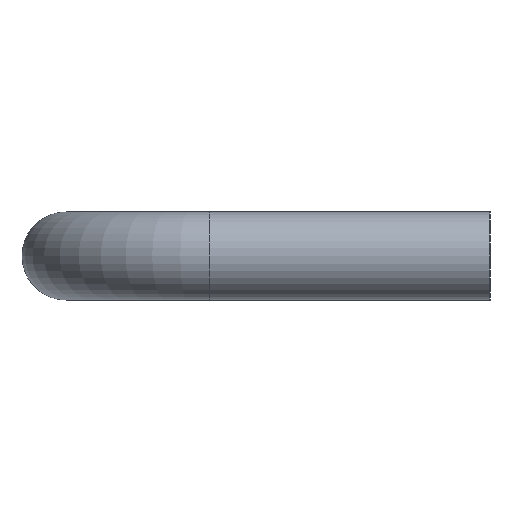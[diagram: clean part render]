
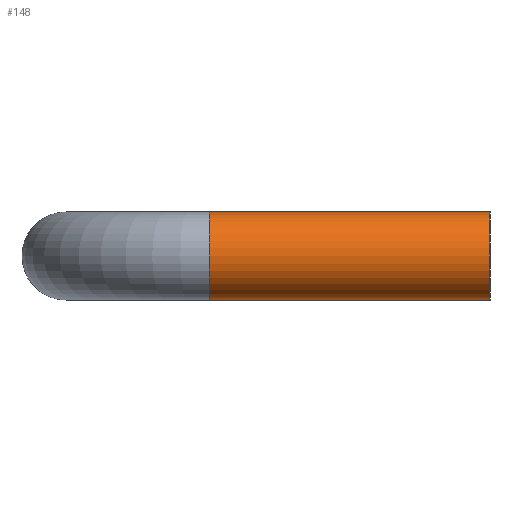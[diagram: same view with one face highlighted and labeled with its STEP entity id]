
A CAD part, left-side view. The second image highlights one B-rep face of the part: STEP entity #148.
In plain terms, the highlighted cylindrical face has radius 8 mm (diameter 16 mm), a full revolution.
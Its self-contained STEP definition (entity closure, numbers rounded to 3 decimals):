
#28=CYLINDRICAL_SURFACE('',#176,8.);
#35=ORIENTED_EDGE('',*,*,#59,.F.);
#36=ORIENTED_EDGE('',*,*,#57,.T.);
#57=EDGE_CURVE('',#69,#69,#83,.T.);
#59=EDGE_CURVE('',#71,#71,#85,.T.);
#69=VERTEX_POINT('',#253);
#71=VERTEX_POINT('',#258);
#83=CIRCLE('',#174,8.);
#85=CIRCLE('',#177,8.);
#97=EDGE_LOOP('',(#35));
#98=EDGE_LOOP('',(#36));
#121=FACE_BOUND('',#97,.T.);
#122=FACE_BOUND('',#98,.T.);
#148=ADVANCED_FACE('',(#121,#122),#28,.T.);
#174=AXIS2_PLACEMENT_3D('',#252,#202,#203);
#176=AXIS2_PLACEMENT_3D('',#256,#206,#207);
#177=AXIS2_PLACEMENT_3D('',#257,#208,#209);
#202=DIRECTION('',(0.,1.,0.));
#203=DIRECTION('',(0.,0.,1.));
#206=DIRECTION('',(0.,1.,0.));
#207=DIRECTION('',(0.,0.,1.));
#208=DIRECTION('',(0.,1.,0.));
#209=DIRECTION('',(0.,0.,1.));
#252=CARTESIAN_POINT('',(-80.,0.,0.));
#253=CARTESIAN_POINT('',(-80.,0.,8.));
#256=CARTESIAN_POINT('',(-80.,51.,0.));
#257=CARTESIAN_POINT('',(-80.,51.,0.));
#258=CARTESIAN_POINT('',(-80.,51.,8.));
